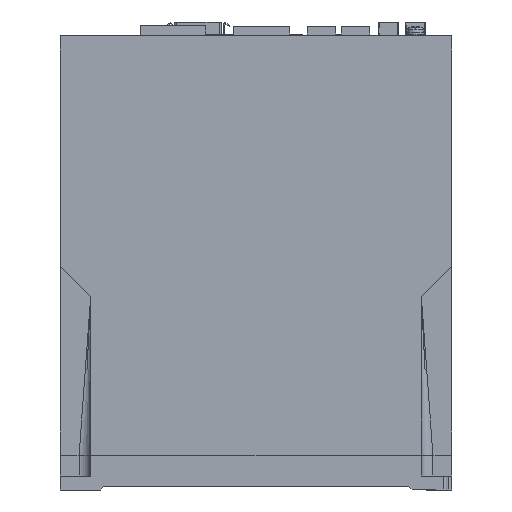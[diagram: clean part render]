
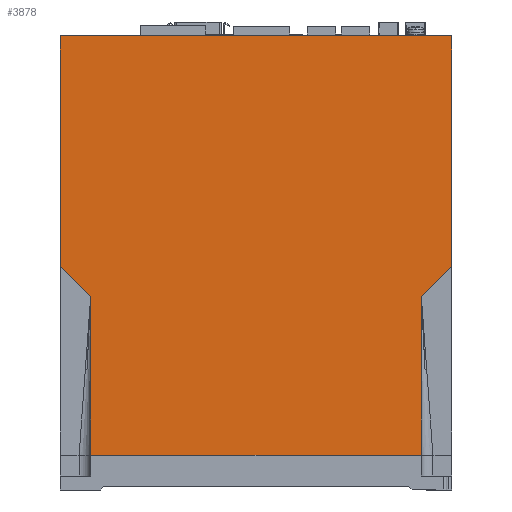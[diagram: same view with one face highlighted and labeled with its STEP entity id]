
A CAD part, left-side view. The second image highlights one B-rep face of the part: STEP entity #3878.
In plain terms, the highlighted planar face has unit normal (-1, 0, 0).
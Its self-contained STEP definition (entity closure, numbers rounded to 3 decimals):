
#1476 = EDGE_CURVE ( 'NONE', #1478, #1479, #3970, .T. ) ;
#1478 = VERTEX_POINT ( 'NONE', #3966 ) ;
#1479 = VERTEX_POINT ( 'NONE', #3965 ) ;
#1749 = EDGE_CURVE ( 'NONE', #1479, #1810, #4021, .T. ) ;
#1807 = EDGE_CURVE ( 'NONE', #1810, #1826, #4013, .T. ) ;
#1810 = VERTEX_POINT ( 'NONE', #4009 ) ;
#1826 = VERTEX_POINT ( 'NONE', #4000 ) ;
#2654 = VERTEX_POINT ( 'NONE', #4027 ) ;
#2828 = EDGE_CURVE ( 'NONE', #1826, #2654, #4154, .T. ) ;
#3122 = VERTEX_POINT ( 'NONE', #4174 ) ;
#3198 = EDGE_CURVE ( 'NONE', #3395, #3122, #4167, .T. ) ;
#3337 = EDGE_CURVE ( 'NONE', #2654, #3395, #4294, .T. ) ;
#3395 = VERTEX_POINT ( 'NONE', #4337 ) ;
#3738 = ORIENTED_EDGE ( 'NONE', *, *, #3198, .T. ) ;
#3755 = ORIENTED_EDGE ( 'NONE', *, *, #3337, .T. ) ;
#3782 = VERTEX_POINT ( 'NONE', #4445 ) ;
#3809 = EDGE_CURVE ( 'NONE', #3122, #3782, #4418, .T. ) ;
#3878 = ADVANCED_FACE ( 'NONE', ( #4476 ), #4474, .T. ) ;
#3948 = EDGE_CURVE ( 'NONE', #3782, #1478, #4468, .T. ) ;
#3965 = CARTESIAN_POINT ( 'NONE',  ( -50., -71., 83. ) ) ;
#3966 = CARTESIAN_POINT ( 'NONE',  ( -50., -71., 15. ) ) ;
#3967 = DIRECTION ( 'NONE',  ( 0., 0., 1. ) ) ;
#3968 = VECTOR ( 'NONE', #3967, 1000. ) ;
#3969 = CARTESIAN_POINT ( 'NONE',  ( -50., -71., 0. ) ) ;
#3970 = LINE ( 'NONE', #3969, #3968 ) ;
#4000 = CARTESIAN_POINT ( 'NONE',  ( -50., -84., 195. ) ) ;
#4009 = CARTESIAN_POINT ( 'NONE',  ( -50., -84., 96. ) ) ;
#4010 = DIRECTION ( 'NONE',  ( 0., 0., 1. ) ) ;
#4011 = VECTOR ( 'NONE', #4010, 1000. ) ;
#4012 = CARTESIAN_POINT ( 'NONE',  ( -50., -84., 0. ) ) ;
#4013 = LINE ( 'NONE', #4012, #4011 ) ;
#4018 = DIRECTION ( 'NONE',  ( 0., -0.707, 0.707 ) ) ;
#4019 = VECTOR ( 'NONE', #4018, 1000. ) ;
#4020 = CARTESIAN_POINT ( 'NONE',  ( -50., -71., 83. ) ) ;
#4021 = LINE ( 'NONE', #4020, #4019 ) ;
#4027 = CARTESIAN_POINT ( 'NONE',  ( -50., 84., 195. ) ) ;
#4151 = DIRECTION ( 'NONE',  ( 0., 1., 0. ) ) ;
#4152 = VECTOR ( 'NONE', #4151, 1000. ) ;
#4153 = CARTESIAN_POINT ( 'NONE',  ( -50., 84., 195. ) ) ;
#4154 = LINE ( 'NONE', #4153, #4152 ) ;
#4164 = DIRECTION ( 'NONE',  ( 0., -0.707, -0.707 ) ) ;
#4165 = VECTOR ( 'NONE', #4164, 1000. ) ;
#4166 = CARTESIAN_POINT ( 'NONE',  ( -50., 84., 96. ) ) ;
#4167 = LINE ( 'NONE', #4166, #4165 ) ;
#4174 = CARTESIAN_POINT ( 'NONE',  ( -50., 71., 83. ) ) ;
#4290 = DIRECTION ( 'NONE',  ( 0., 0., -1. ) ) ;
#4291 = VECTOR ( 'NONE', #4290, 1000. ) ;
#4292 = CARTESIAN_POINT ( 'NONE',  ( -50., 84., 0. ) ) ;
#4294 = LINE ( 'NONE', #4292, #4291 ) ;
#4337 = CARTESIAN_POINT ( 'NONE',  ( -50., 84., 96. ) ) ;
#4415 = DIRECTION ( 'NONE',  ( 0., 0., -1. ) ) ;
#4416 = VECTOR ( 'NONE', #4415, 1000. ) ;
#4417 = CARTESIAN_POINT ( 'NONE',  ( -50., 71., 0. ) ) ;
#4418 = LINE ( 'NONE', #4417, #4416 ) ;
#4445 = CARTESIAN_POINT ( 'NONE',  ( -50., 71., 15. ) ) ;
#4465 = DIRECTION ( 'NONE',  ( 0., -1., 0. ) ) ;
#4466 = VECTOR ( 'NONE', #4465, 1000. ) ;
#4467 = CARTESIAN_POINT ( 'NONE',  ( -50., 84., 15. ) ) ;
#4468 = LINE ( 'NONE', #4467, #4466 ) ;
#4470 = DIRECTION ( 'NONE',  ( 0., 0., 1. ) ) ;
#4471 = DIRECTION ( 'NONE',  ( -1., 0., 0. ) ) ;
#4472 = CARTESIAN_POINT ( 'NONE',  ( -50., 84., 0. ) ) ;
#4473 = AXIS2_PLACEMENT_3D ( 'NONE', #4472, #4471, #4470 ) ;
#4474 = PLANE ( 'NONE',  #4473 ) ;
#4476 = FACE_OUTER_BOUND ( 'NONE', #11976, .T. ) ;
#11976 = EDGE_LOOP ( 'NONE', ( #11996, #12070, #12099, #12117, #12152, #12048, #3755, #3738 ) ) ;
#11996 = ORIENTED_EDGE ( 'NONE', *, *, #3809, .T. ) ;
#12048 = ORIENTED_EDGE ( 'NONE', *, *, #2828, .T. ) ;
#12070 = ORIENTED_EDGE ( 'NONE', *, *, #3948, .T. ) ;
#12099 = ORIENTED_EDGE ( 'NONE', *, *, #1476, .T. ) ;
#12117 = ORIENTED_EDGE ( 'NONE', *, *, #1749, .T. ) ;
#12152 = ORIENTED_EDGE ( 'NONE', *, *, #1807, .T. ) ;
